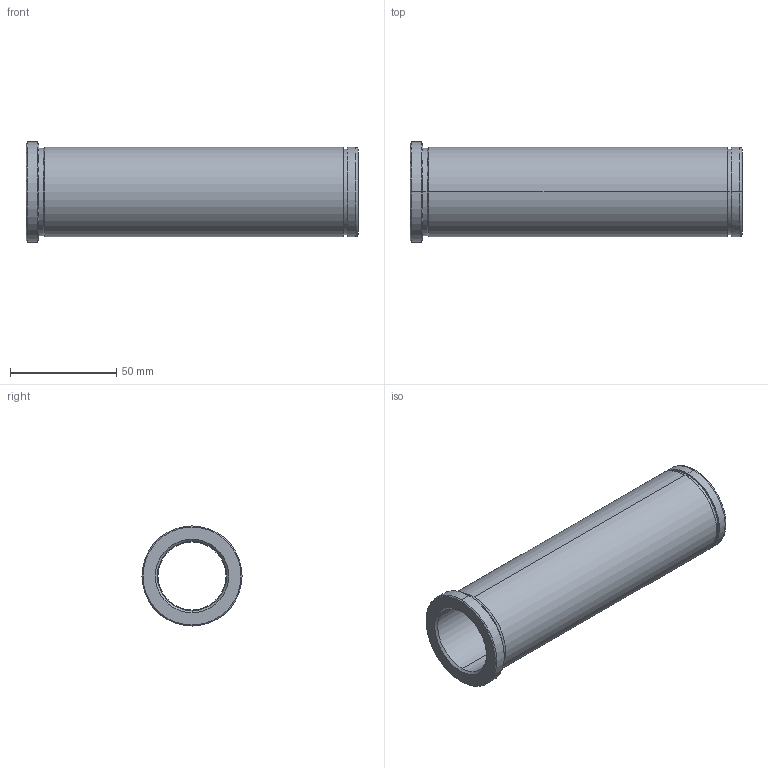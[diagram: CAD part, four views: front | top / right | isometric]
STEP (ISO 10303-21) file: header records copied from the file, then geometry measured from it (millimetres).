
FILE_DESCRIPTION(('CATIA V5 STEP Exchange'),'2;1');
FILE_NAME('C:\Users\Utente\Desktop\IO LAVORO\3D X SITO CF\X SITO\PLASTICA\553\553-32X156.stp','2021-05-26T18:49:03+00:00',('none'),('none'),'CATIA Version 5 Release 20 GA (IN-10)','CATIA V5 STEP AP203','none');
FILE_SCHEMA(('CONFIG_CONTROL_DESIGN'));
Length unit declared in the file: millimetre
Products named in the file (1): 553-32X156
Bounding box: 156 x 47 x 47 mm (x, y, z)
Volume: 90577.5 mm3; surface area: 38318.1 mm2
Topology: 1 solids, 1 shells, 32 faces, 102 edges, 76 vertices
Faces by surface type: cylinder 14, cone 8, plane 6, torus 4
Entity records: 1340 total; most frequent: CARTESIAN_POINT 399, ORIENTED_EDGE 204, DIRECTION 150, EDGE_CURVE 102, AXIS2_PLACEMENT_3D 97, VERTEX_POINT 76, CIRCLE 64, EDGE_LOOP 38
